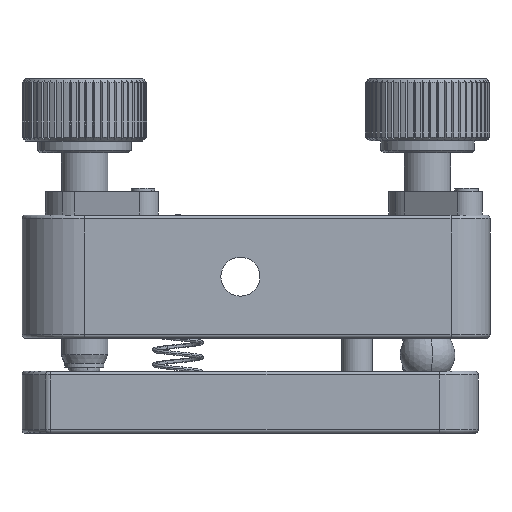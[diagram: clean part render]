
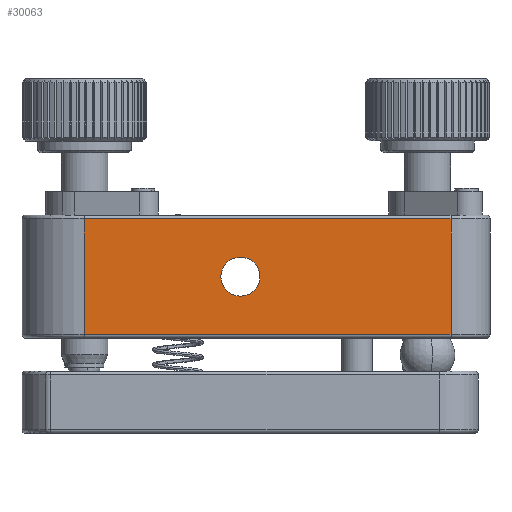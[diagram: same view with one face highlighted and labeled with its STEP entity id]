
A CAD part, front view. The second image highlights one B-rep face of the part: STEP entity #30063.
In plain terms, the highlighted planar face has unit normal (0, -1, 0).
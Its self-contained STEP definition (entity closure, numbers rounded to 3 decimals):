
#304 = CARTESIAN_POINT ( 'NONE',  ( 59.542, 16.393, -100.407 ) ) ;
#1296 = CIRCLE ( 'NONE', #21417, 2.5 ) ;
#1591 = CARTESIAN_POINT ( 'NONE',  ( 86.542, 16.393, -100.407 ) ) ;
#1778 = EDGE_CURVE ( 'NONE', #31446, #33111, #7675, .T. ) ;
#2975 = FACE_BOUND ( 'NONE', #23068, .T. ) ;
#4082 = CARTESIAN_POINT ( 'NONE',  ( 59.542, 16.393, -108.307 ) ) ;
#4749 = CARTESIAN_POINT ( 'NONE',  ( 39.542, 16.393, -115.707 ) ) ;
#5281 = LINE ( 'NONE', #16265, #20867 ) ;
#5960 = VERTEX_POINT ( 'NONE', #15017 ) ;
#6222 = VECTOR ( 'NONE', #29383, 1000. ) ;
#7420 = LINE ( 'NONE', #18381, #6222 ) ;
#7675 = CIRCLE ( 'NONE', #27795, 2.5 ) ;
#8979 = CARTESIAN_POINT ( 'NONE',  ( 59.542, 16.393, -108.307 ) ) ;
#10225 = CARTESIAN_POINT ( 'NONE',  ( 59.542, 16.393, -115.707 ) ) ;
#11282 = DIRECTION ( 'NONE',  ( 0., 1., 0. ) ) ;
#12572 = DIRECTION ( 'NONE',  ( 0., 0., -1. ) ) ;
#12822 = CARTESIAN_POINT ( 'NONE',  ( 59.542, 16.393, -105.807 ) ) ;
#13484 = EDGE_LOOP ( 'NONE', ( #21720, #33901, #26150, #29404 ) ) ;
#13956 = FACE_OUTER_BOUND ( 'NONE', #13484, .T. ) ;
#14793 = EDGE_CURVE ( 'NONE', #23689, #27057, #5281, .T. ) ;
#15017 = CARTESIAN_POINT ( 'NONE',  ( 86.542, 16.393, -100.907 ) ) ;
#15050 = DIRECTION ( 'NONE',  ( 0., -1., 0. ) ) ;
#16265 = CARTESIAN_POINT ( 'NONE',  ( 39.542, 16.393, -100.407 ) ) ;
#17209 = CARTESIAN_POINT ( 'NONE',  ( 59.542, 16.393, -110.807 ) ) ;
#17252 = CARTESIAN_POINT ( 'NONE',  ( 86.542, 16.393, -115.707 ) ) ;
#18003 = VECTOR ( 'NONE', #12572, 1000. ) ;
#18381 = CARTESIAN_POINT ( 'NONE',  ( 39.542, 16.393, -100.907 ) ) ;
#19942 = DIRECTION ( 'NONE',  ( 0., -1., 0. ) ) ;
#20835 = ORIENTED_EDGE ( 'NONE', *, *, #1778, .F. ) ;
#20867 = VECTOR ( 'NONE', #27265, 1000. ) ;
#21197 = DIRECTION ( 'NONE',  ( 1., 0., 0. ) ) ;
#21417 = AXIS2_PLACEMENT_3D ( 'NONE', #4082, #15050, #26038 ) ;
#21720 = ORIENTED_EDGE ( 'NONE', *, *, #14793, .T. ) ;
#22256 = DIRECTION ( 'NONE',  ( 0., 0., 1. ) ) ;
#23068 = EDGE_LOOP ( 'NONE', ( #20835, #35204 ) ) ;
#23689 = VERTEX_POINT ( 'NONE', #25285 ) ;
#24373 = VECTOR ( 'NONE', #21197, 1000. ) ;
#24930 = PLANE ( 'NONE',  #29109 ) ;
#25285 = CARTESIAN_POINT ( 'NONE',  ( 39.542, 16.393, -100.907 ) ) ;
#26038 = DIRECTION ( 'NONE',  ( 0., 0., -1. ) ) ;
#26150 = ORIENTED_EDGE ( 'NONE', *, *, #34152, .F. ) ;
#26253 = LINE ( 'NONE', #1591, #18003 ) ;
#26491 = EDGE_CURVE ( 'NONE', #33111, #31446, #1296, .T. ) ;
#27057 = VERTEX_POINT ( 'NONE', #4749 ) ;
#27265 = DIRECTION ( 'NONE',  ( 0., 0., -1. ) ) ;
#27795 = AXIS2_PLACEMENT_3D ( 'NONE', #8979, #19942, #30952 ) ;
#28073 = EDGE_CURVE ( 'NONE', #27057, #29218, #34887, .T. ) ;
#29109 = AXIS2_PLACEMENT_3D ( 'NONE', #304, #11282, #22256 ) ;
#29218 = VERTEX_POINT ( 'NONE', #17252 ) ;
#29383 = DIRECTION ( 'NONE',  ( -1., 0., 0. ) ) ;
#29404 = ORIENTED_EDGE ( 'NONE', *, *, #31843, .T. ) ;
#30063 = ADVANCED_FACE ( 'NONE', ( #2975, #13956 ), #24930, .F. ) ;
#30952 = DIRECTION ( 'NONE',  ( 0., 0., -1. ) ) ;
#31446 = VERTEX_POINT ( 'NONE', #17209 ) ;
#31843 = EDGE_CURVE ( 'NONE', #5960, #23689, #7420, .T. ) ;
#33111 = VERTEX_POINT ( 'NONE', #12822 ) ;
#33901 = ORIENTED_EDGE ( 'NONE', *, *, #28073, .T. ) ;
#34152 = EDGE_CURVE ( 'NONE', #5960, #29218, #26253, .T. ) ;
#34887 = LINE ( 'NONE', #10225, #24373 ) ;
#35204 = ORIENTED_EDGE ( 'NONE', *, *, #26491, .F. ) ;
